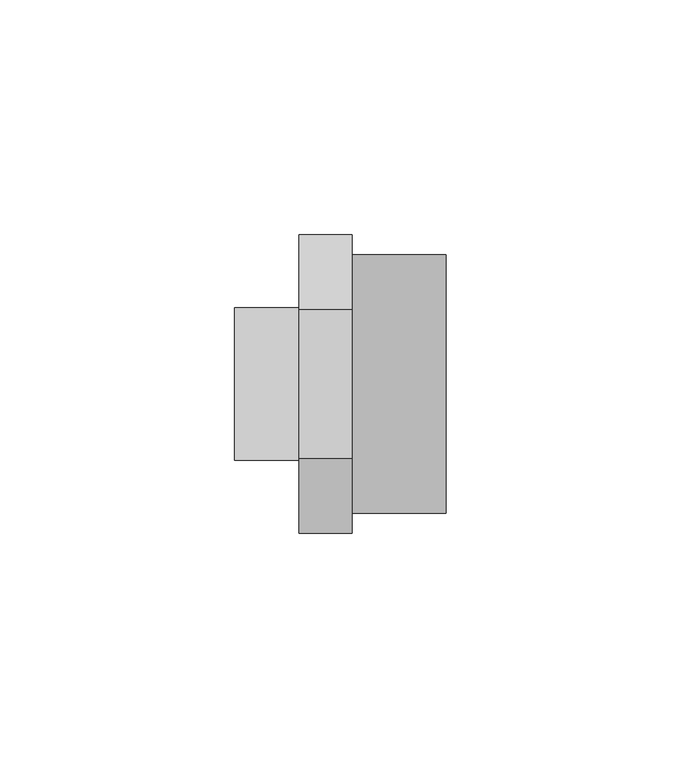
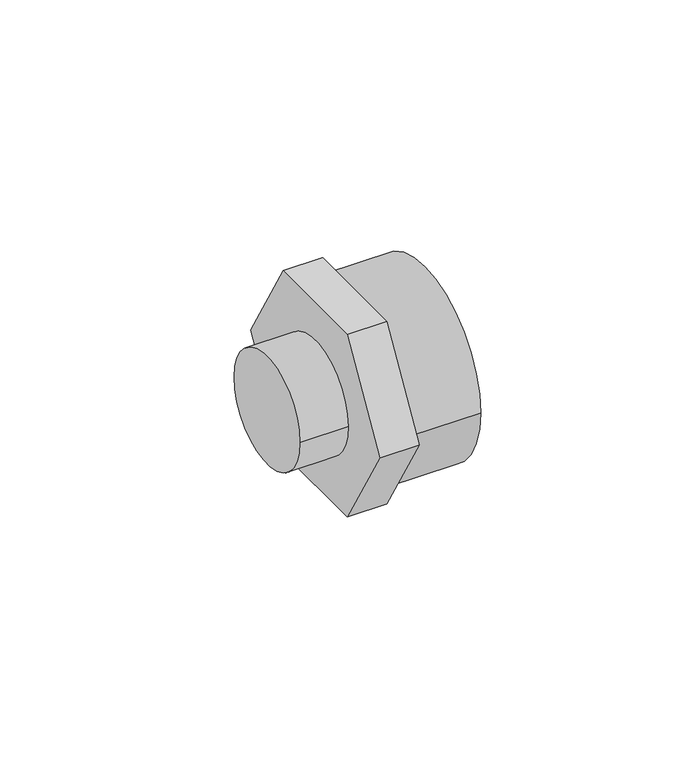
"""IFC4 building model written with IfcOpenShell, lengths in millimetres: pipe fitting geometry, 01101006_ : Uniões de réduction F/M."""

from ifc_helpers import new_model, si_unit, point, frame, origin, origin_2d, place, context, project, spatial, polyline, circle_curve, trimmed, segment, composite_curve, outline, extrude, source, transform, mapped, element, save


def pipe_fitting_ddbadf2d(model_context):
    return source(origin(), model_context, "Body", "SweptSolid", [
        extrude(outline(composite_curve([segment(trimmed(circle_curve(origin_2d(), 16.25), [point((16.25, 0.0))], [point((-16.25, 0.0))], False, "CARTESIAN"), True, "CONTINUOUS"), segment(trimmed(circle_curve(origin_2d(), 16.25), [point((-16.25, 0.0))], [point((16.25, 0.0))], False, "CARTESIAN"), True, "CONTINUOUS")], self_intersect=False)), frame((0.0, 0.0, 0.0), z_axis=(1.0, 0.0, 0.0), x_axis=(0.0, 1.0, 0.0)), (0.0, 0.0, 1.0), 13.75),
        extrude(outline(polyline([(-15.8771324, 27.5), (15.8771324, 27.5), (31.7542648, 0.0), (15.8771324, -27.5), (-15.8771324, -27.5), (-31.7542648, 0.0), (-15.8771324, 27.5)])), frame((13.75, 0.0, 0.0), z_axis=(1.0, 0.0, 0.0), x_axis=(0.0, 1.0, 0.0)), (0.0, 0.0, 1.0), 11.25),
        extrude(outline(composite_curve([segment(trimmed(circle_curve(origin_2d(), 27.5), [point((-27.5, 0.0))], [point((27.5, 0.0))], False, "CARTESIAN"), True, "CONTINUOUS"), segment(trimmed(circle_curve(origin_2d(), 27.5), [point((27.5, 0.0))], [point((-27.5, 0.0))], False, "CARTESIAN"), True, "CONTINUOUS")], self_intersect=False)), frame((25.0, 0.0, 0.0), z_axis=(1.0, 0.0, 0.0), x_axis=(0.0, 1.0, 0.0)), (0.0, 0.0, 1.0), 20.0),
    ])


if __name__ == "__main__":
    model = new_model("IFC4")
    model_context = context("Model", 3, world=origin())
    ifc_project = project(units=[si_unit("LENGTHUNIT", "METRE", prefix="MILLI")], contexts=[model_context])
    site = spatial("IfcSite", under=ifc_project)
    building = spatial("IfcBuilding", under=site)
    placement = place(None, origin())
    pipe_fitting_shape = pipe_fitting_ddbadf2d(model_context)
    element("IfcPipeFitting", 1, ObjectType="01101006_ : Uniões de réduction F/M", at=placement, inside=building, context=model_context, shape_type="MappedRepresentation", body=[
        mapped(pipe_fitting_shape, transform((0.0, 0.0, 0.0), x_axis=(1.0, 0.0, 0.0), y_axis=(0.0, 1.0, 0.0), z_axis=(0.0, 0.0, 1.0))),
    ])
    save(model, "model.ifc")
